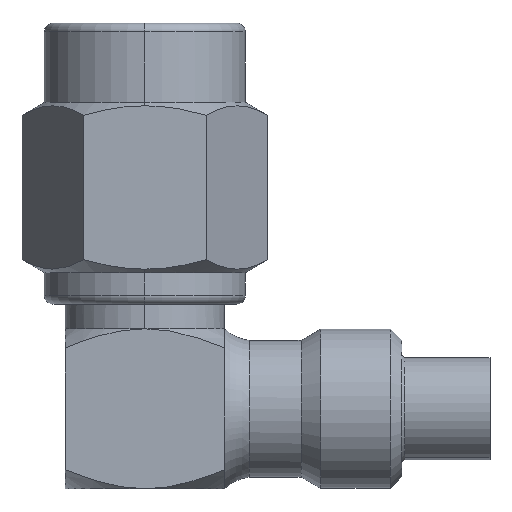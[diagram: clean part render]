
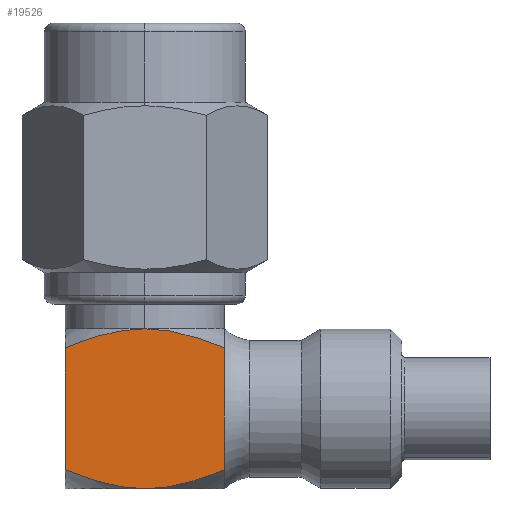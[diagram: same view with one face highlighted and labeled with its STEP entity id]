
A CAD part, left-side view. The second image highlights one B-rep face of the part: STEP entity #19526.
In plain terms, the highlighted planar face has unit normal (-1, 0, 0).
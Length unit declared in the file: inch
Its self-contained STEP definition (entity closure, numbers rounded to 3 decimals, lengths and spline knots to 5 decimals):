
#701 = B_SPLINE_CURVE_WITH_KNOTS ( 'NONE', 3,
 ( #4071, #8365, #17875, #11603, #15913, #4895, #21563, #17297 ),
 .UNSPECIFIED., .F., .F.,
 ( 4, 2, 2, 4 ),
 ( 0.00257, 0.0038, 0.00441, 0.00502 ),
 .UNSPECIFIED. ) ;
#985 = CARTESIAN_POINT ( 'NONE',  ( -0.0935, 0.06321, -0.36968 ) ) ;
#1210 = CARTESIAN_POINT ( 'NONE',  ( -0.0935, -0.03999, -0.36359 ) ) ;
#2499 = CARTESIAN_POINT ( 'NONE',  ( -0.0935, 0.06321, -0.53632 ) ) ;
#2956 = VERTEX_POINT ( 'NONE', #10840 ) ;
#3084 = VERTEX_POINT ( 'NONE', #20478 ) ;
#3158 = DIRECTION ( 'NONE',  ( 0., 0., -1. ) ) ;
#3295 = VERTEX_POINT ( 'NONE', #23160 ) ;
#3343 = VERTEX_POINT ( 'NONE', #10569 ) ;
#3570 = ORIENTED_EDGE ( 'NONE', *, *, #13281, .F. ) ;
#3738 = CARTESIAN_POINT ( 'NONE',  ( -0.0935, 0., -0.359 ) ) ;
#3783 = B_SPLINE_CURVE_WITH_KNOTS ( 'NONE', 3,
 ( #3738, #20098, #12445, #12689, #1210, #8733, #18796, #18925 ),
 .UNSPECIFIED., .F., .F.,
 ( 4, 2, 2, 4 ),
 ( 0.00863, 0.00924, 0.00985, 0.01106 ),
 .UNSPECIFIED. ) ;
#3790 = EDGE_CURVE ( 'NONE', #3084, #2956, #3783, .T. ) ;
#4071 = CARTESIAN_POINT ( 'NONE',  ( -0.0935, -0.0935, -0.52464 ) ) ;
#4641 = ORIENTED_EDGE ( 'NONE', *, *, #9952, .F. ) ;
#4725 = ORIENTED_EDGE ( 'NONE', *, *, #6166, .F. ) ;
#4895 = CARTESIAN_POINT ( 'NONE',  ( -0.0935, -0.01621, -0.54638 ) ) ;
#5045 = CARTESIAN_POINT ( 'NONE',  ( -0.0935, 0., -0.359 ) ) ;
#5286 = DIRECTION ( 'NONE',  ( 0., 1., 0. ) ) ;
#5555 = LINE ( 'NONE', #18533, #13785 ) ;
#6166 = EDGE_CURVE ( 'NONE', #19352, #7675, #12787, .T. ) ;
#6212 = VERTEX_POINT ( 'NONE', #7233 ) ;
#6215 = CARTESIAN_POINT ( 'NONE',  ( -0.0935, 0.03206, -0.54448 ) ) ;
#6249 = VECTOR ( 'NONE', #20955, 39.37008 ) ;
#6967 = EDGE_CURVE ( 'NONE', #3343, #20312, #9719, .T. ) ;
#7233 = CARTESIAN_POINT ( 'NONE',  ( -0.0935, -0.0935, -0.44332 ) ) ;
#7675 = VERTEX_POINT ( 'NONE', #22152 ) ;
#8365 = CARTESIAN_POINT ( 'NONE',  ( -0.0935, -0.07858, -0.53073 ) ) ;
#8733 = CARTESIAN_POINT ( 'NONE',  ( -0.0935, -0.06331, -0.36972 ) ) ;
#8793 = ORIENTED_EDGE ( 'NONE', *, *, #11766, .F. ) ;
#8972 = VECTOR ( 'NONE', #22164, 39.37008 ) ;
#9180 = EDGE_CURVE ( 'NONE', #2956, #6212, #5555, .T. ) ;
#9719 = LINE ( 'NONE', #16906, #6249 ) ;
#9952 = EDGE_CURVE ( 'NONE', #6212, #19352, #21685, .T. ) ;
#10569 = CARTESIAN_POINT ( 'NONE',  ( -0.0935, 0.0935, -0.38136 ) ) ;
#10839 = CARTESIAN_POINT ( 'NONE',  ( -0.0935, 0., -0.359 ) ) ;
#10840 = CARTESIAN_POINT ( 'NONE',  ( -0.0935, -0.0935, -0.38136 ) ) ;
#11296 = VECTOR ( 'NONE', #3158, 39.37008 ) ;
#11603 = CARTESIAN_POINT ( 'NONE',  ( -0.0935, -0.03999, -0.54241 ) ) ;
#11766 = EDGE_CURVE ( 'NONE', #7675, #3295, #701, .T. ) ;
#11859 = ORIENTED_EDGE ( 'NONE', *, *, #6967, .T. ) ;
#12086 = CARTESIAN_POINT ( 'NONE',  ( -0.0935, -0.0935, -0.46268 ) ) ;
#12445 = CARTESIAN_POINT ( 'NONE',  ( -0.0935, -0.01621, -0.35962 ) ) ;
#12596 = B_SPLINE_CURVE_WITH_KNOTS ( 'NONE', 3,
 ( #14447, #20116, #985, #12706, #20228, #5045 ),
 .UNSPECIFIED., .F., .F.,
 ( 4, 2, 4 ),
 ( 0.00618, 0.0074, 0.00863 ),
 .UNSPECIFIED. ) ;
#12689 = CARTESIAN_POINT ( 'NONE',  ( -0.0935, -0.03214, -0.36193 ) ) ;
#12706 = CARTESIAN_POINT ( 'NONE',  ( -0.0935, 0.03206, -0.36152 ) ) ;
#12787 = LINE ( 'NONE', #24136, #11296 ) ;
#12905 = CARTESIAN_POINT ( 'NONE',  ( -0.0935, 0.01623, -0.547 ) ) ;
#13281 = EDGE_CURVE ( 'NONE', #3295, #20312, #21496, .T. ) ;
#13514 = CARTESIAN_POINT ( 'NONE',  ( -0.0935, 0.0935, -0.52464 ) ) ;
#13638 = CARTESIAN_POINT ( 'NONE',  ( -0.0935, 0.07856, -0.53074 ) ) ;
#13785 = VECTOR ( 'NONE', #24080, 39.37008 ) ;
#14447 = CARTESIAN_POINT ( 'NONE',  ( -0.0935, 0.0935, -0.38136 ) ) ;
#15290 = AXIS2_PLACEMENT_3D ( 'NONE', #10839, #23930, #5286 ) ;
#15913 = CARTESIAN_POINT ( 'NONE',  ( -0.0935, -0.03214, -0.54407 ) ) ;
#16189 = CARTESIAN_POINT ( 'NONE',  ( -0.0935, 0.0935, -0.52464 ) ) ;
#16515 = CARTESIAN_POINT ( 'NONE',  ( -0.0935, -0.0935, -0.453 ) ) ;
#16544 = FACE_OUTER_BOUND ( 'NONE', #18800, .T. ) ;
#16906 = CARTESIAN_POINT ( 'NONE',  ( -0.0935, 0.0935, -0.359 ) ) ;
#17297 = CARTESIAN_POINT ( 'NONE',  ( -0.0935, 0., -0.547 ) ) ;
#17875 = CARTESIAN_POINT ( 'NONE',  ( -0.0935, -0.06331, -0.53628 ) ) ;
#17905 = ORIENTED_EDGE ( 'NONE', *, *, #3790, .F. ) ;
#18533 = CARTESIAN_POINT ( 'NONE',  ( -0.0935, -0.0935, -0.359 ) ) ;
#18796 = CARTESIAN_POINT ( 'NONE',  ( -0.0935, -0.07858, -0.37527 ) ) ;
#18800 = EDGE_LOOP ( 'NONE', ( #8793, #4725, #4641, #20373, #17905, #21048, #11859, #3570 ) ) ;
#18925 = CARTESIAN_POINT ( 'NONE',  ( -0.0935, -0.0935, -0.38136 ) ) ;
#19352 = VERTEX_POINT ( 'NONE', #12086 ) ;
#19504 = EDGE_CURVE ( 'NONE', #3343, #3084, #12596, .T. ) ;
#19526 = ADVANCED_FACE ( 'NONE', ( #16544 ), #21948, .F. ) ;
#20098 = CARTESIAN_POINT ( 'NONE',  ( -0.0935, -0.00805, -0.359 ) ) ;
#20116 = CARTESIAN_POINT ( 'NONE',  ( -0.0935, 0.07856, -0.37526 ) ) ;
#20228 = CARTESIAN_POINT ( 'NONE',  ( -0.0935, 0.01623, -0.359 ) ) ;
#20312 = VERTEX_POINT ( 'NONE', #16189 ) ;
#20373 = ORIENTED_EDGE ( 'NONE', *, *, #9180, .F. ) ;
#20478 = CARTESIAN_POINT ( 'NONE',  ( -0.0935, 0., -0.359 ) ) ;
#20955 = DIRECTION ( 'NONE',  ( 0., 0., -1. ) ) ;
#21048 = ORIENTED_EDGE ( 'NONE', *, *, #19504, .F. ) ;
#21496 = B_SPLINE_CURVE_WITH_KNOTS ( 'NONE', 3,
 ( #22875, #12905, #6215, #2499, #13638, #13514 ),
 .UNSPECIFIED., .F., .F.,
 ( 4, 2, 4 ),
 ( 0.00502, 0.00626, 0.0075 ),
 .UNSPECIFIED. ) ;
#21563 = CARTESIAN_POINT ( 'NONE',  ( -0.0935, -0.00805, -0.547 ) ) ;
#21685 = LINE ( 'NONE', #16515, #8972 ) ;
#21948 = PLANE ( 'NONE',  #15290 ) ;
#22152 = CARTESIAN_POINT ( 'NONE',  ( -0.0935, -0.0935, -0.52464 ) ) ;
#22164 = DIRECTION ( 'NONE',  ( 0., 0., -1. ) ) ;
#22875 = CARTESIAN_POINT ( 'NONE',  ( -0.0935, 0., -0.547 ) ) ;
#23160 = CARTESIAN_POINT ( 'NONE',  ( -0.0935, 0., -0.547 ) ) ;
#23930 = DIRECTION ( 'NONE',  ( 1., 0., 0. ) ) ;
#24080 = DIRECTION ( 'NONE',  ( 0., 0., -1. ) ) ;
#24136 = CARTESIAN_POINT ( 'NONE',  ( -0.0935, -0.0935, -0.359 ) ) ;
